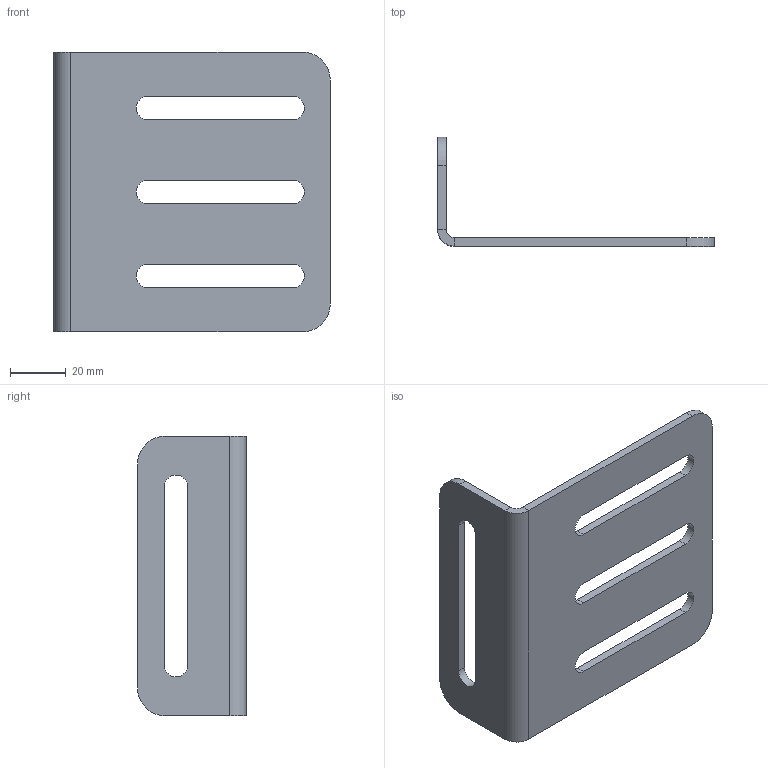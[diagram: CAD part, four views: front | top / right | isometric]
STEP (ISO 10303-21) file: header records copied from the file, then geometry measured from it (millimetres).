
FILE_DESCRIPTION (( 'STEP AP203' ), '1' );
FILE_NAME ('A-258.STEP', '2026-02-18T07:05:11', ( '' ), ( '' ), 'SwSTEP 2.0', 'SolidWorks 2021', '' );
FILE_SCHEMA (( 'CONFIG_CONTROL_DESIGN' ));
Length unit declared in the file: millimetre
Products named in the file (1): A-258
Bounding box: 98.8 x 38.9 x 100 mm (x, y, z)
Volume: 33333.1 mm3; surface area: 25195.6 mm2
Topology: 1 solids, 1 shells, 34 faces, 88 edges, 56 vertices
Faces by surface type: plane 20, cylinder 14
Entity records: 1129 total; most frequent: DIRECTION 186, CARTESIAN_POINT 179, ORIENTED_EDGE 176, EDGE_CURVE 88, AXIS2_PLACEMENT_3D 63, VECTOR 60, LINE 60, VERTEX_POINT 56
